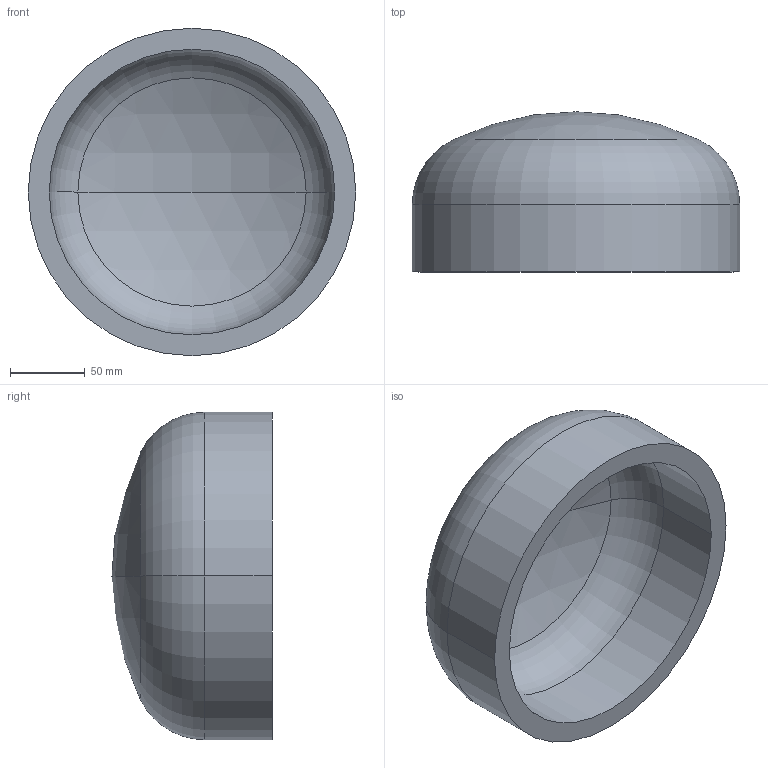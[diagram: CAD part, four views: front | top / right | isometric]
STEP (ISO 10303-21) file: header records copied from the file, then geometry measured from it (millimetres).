
FILE_DESCRIPTION (( 'STEP AP203' ), '1' );
FILE_NAME ('DIN 28013 Korbbogenform_-_Boden DIN 28013 - 219,1 x 45 - I - s=14.step', '2016-07-01T07:42:30', ( '' ), ( '' ), 'SwSTEP 2.0', 'SolidWorks 2013', '' );
FILE_SCHEMA (( 'CONFIG_CONTROL_DESIGN' ));
Length unit declared in the file: millimetre
Products named in the file (1): DIN 28013 Korbbogenform_-_Boden DIN 28013 - 219,1 x 45 - I - s=14
Bounding box: 219.1 x 107.14 x 219.1 mm (x, y, z)
Volume: 1081091.2 mm3; surface area: 163872.8 mm2
Topology: 1 solids, 1 shells, 13 faces, 24 edges, 14 vertices
Faces by surface type: torus 4, cylinder 4, sphere 4, plane 1
Entity records: 407 total; most frequent: DIRECTION 72, CARTESIAN_POINT 52, ORIENTED_EDGE 48, AXIS2_PLACEMENT_3D 34, EDGE_CURVE 24, CIRCLE 20, VERTEX_POINT 14, EDGE_LOOP 14
